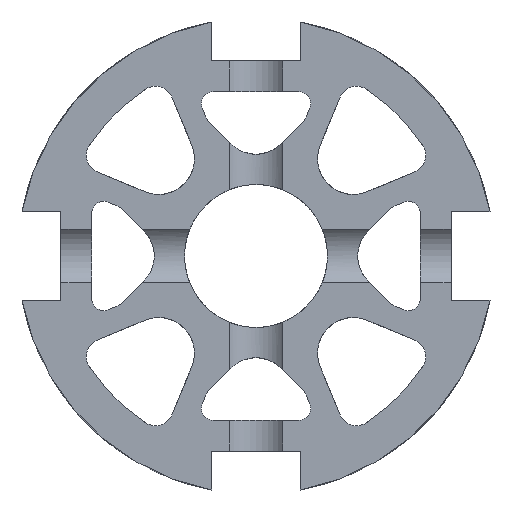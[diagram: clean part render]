
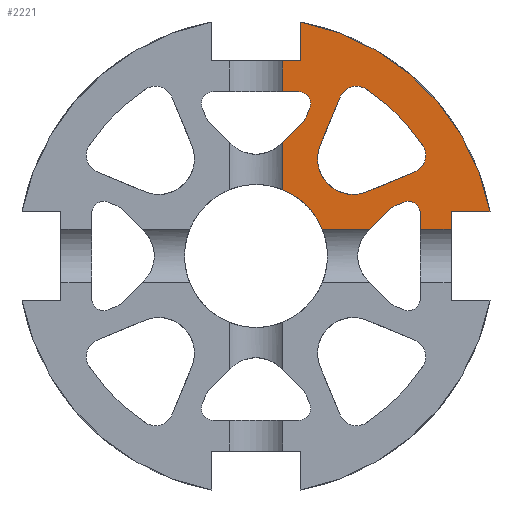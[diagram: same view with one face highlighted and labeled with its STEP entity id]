
A CAD part, front view. The second image highlights one B-rep face of the part: STEP entity #2221.
In plain terms, the highlighted planar face has unit normal (0, -1, 0).
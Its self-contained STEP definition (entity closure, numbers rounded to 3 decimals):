
#2221=ADVANCED_FACE('Split.2',(#4587,#4588),#4589,.F.);
#4587=FACE_OUTER_BOUND('',#6949,.T.);
#4588=FACE_BOUND('',#6950,.T.);
#4589=PLANE('',#6951);
#6949=EDGE_LOOP('',(#14539,#14540,#14541,#14542,#14543,#14544,#14545,#14546,#14547,#14548,#14549,#14550,#14551,#14552,#14553,#14554,#14555,#14556,#14557,#14558,#14559));
#6950=EDGE_LOOP('',(#14560,#14561,#14562,#14563,#14564,#14565,#14566,#14567));
#6951=AXIS2_PLACEMENT_3D('',#14568,#14569,#14570);
#14539=ORIENTED_EDGE('',*,*,#17490,.F.);
#14540=ORIENTED_EDGE('',*,*,#17556,.F.);
#14541=ORIENTED_EDGE('',*,*,#17560,.T.);
#14542=ORIENTED_EDGE('',*,*,#17562,.T.);
#14543=ORIENTED_EDGE('',*,*,#14916,.T.);
#14544=ORIENTED_EDGE('',*,*,#17565,.T.);
#14545=ORIENTED_EDGE('',*,*,#17569,.T.);
#14546=ORIENTED_EDGE('',*,*,#17500,.F.);
#14547=ORIENTED_EDGE('',*,*,#17597,.T.);
#14548=ORIENTED_EDGE('',*,*,#17615,.T.);
#14549=ORIENTED_EDGE('',*,*,#17711,.F.);
#14550=ORIENTED_EDGE('',*,*,#17713,.T.);
#14551=ORIENTED_EDGE('',*,*,#17716,.T.);
#14552=ORIENTED_EDGE('',*,*,#17508,.T.);
#14553=ORIENTED_EDGE('',*,*,#17675,.T.);
#14554=ORIENTED_EDGE('',*,*,#17680,.T.);
#14555=ORIENTED_EDGE('',*,*,#17683,.T.);
#14556=ORIENTED_EDGE('',*,*,#17686,.T.);
#14557=ORIENTED_EDGE('',*,*,#17688,.F.);
#14558=ORIENTED_EDGE('',*,*,#17503,.T.);
#14559=ORIENTED_EDGE('',*,*,#14751,.T.);
#14560=ORIENTED_EDGE('',*,*,#17612,.T.);
#14561=ORIENTED_EDGE('',*,*,#17609,.T.);
#14562=ORIENTED_EDGE('',*,*,#17701,.T.);
#14563=ORIENTED_EDGE('',*,*,#14833,.T.);
#14564=ORIENTED_EDGE('',*,*,#17703,.F.);
#14565=ORIENTED_EDGE('',*,*,#14826,.T.);
#14566=ORIENTED_EDGE('',*,*,#17706,.T.);
#14567=ORIENTED_EDGE('',*,*,#17708,.T.);
#14568=CARTESIAN_POINT('',(0.0,15.0,0.0));
#14569=DIRECTION('',(0.0,1.0,0.0));
#14570=DIRECTION('',(0.0,0.0,1.0));
#14751=EDGE_CURVE('',#17961,#17959,#17962,.T.);
#14826=EDGE_CURVE('',#18103,#18100,#18104,.T.);
#14833=EDGE_CURVE('',#18110,#18114,#18116,.T.);
#14916=EDGE_CURVE('',#18256,#18253,#18257,.T.);
#17490=EDGE_CURVE('',#22098,#17959,#22100,.T.);
#17500=EDGE_CURVE('',#22115,#22117,#22118,.T.);
#17503=EDGE_CURVE('',#22121,#17961,#22122,.T.);
#17508=EDGE_CURVE('',#22128,#22129,#22130,.T.);
#17556=EDGE_CURVE('',#22193,#22098,#22194,.T.);
#17560=EDGE_CURVE('',#22193,#22197,#22199,.T.);
#17562=EDGE_CURVE('',#22197,#18256,#22201,.T.);
#17565=EDGE_CURVE('',#18253,#22203,#22205,.T.);
#17569=EDGE_CURVE('',#22203,#22117,#22210,.T.);
#17597=EDGE_CURVE('',#22115,#22243,#22245,.T.);
#17609=EDGE_CURVE('',#22261,#22259,#22262,.T.);
#17612=EDGE_CURVE('',#22265,#22261,#22266,.T.);
#17615=EDGE_CURVE('',#22243,#22269,#22270,.T.);
#17675=EDGE_CURVE('',#22129,#22343,#22345,.T.);
#17680=EDGE_CURVE('',#22343,#22350,#22352,.T.);
#17683=EDGE_CURVE('',#22350,#22354,#22356,.T.);
#17686=EDGE_CURVE('',#22354,#22358,#22360,.T.);
#17688=EDGE_CURVE('',#22121,#22358,#22362,.T.);
#17701=EDGE_CURVE('',#22259,#18110,#22378,.T.);
#17703=EDGE_CURVE('',#18103,#18114,#22380,.T.);
#17706=EDGE_CURVE('',#18100,#22382,#22384,.T.);
#17708=EDGE_CURVE('',#22382,#22265,#22386,.T.);
#17711=EDGE_CURVE('',#22388,#22269,#22390,.T.);
#17713=EDGE_CURVE('',#22388,#22392,#22393,.T.);
#17716=EDGE_CURVE('',#22392,#22128,#22396,.T.);
#17959=VERTEX_POINT('',#24340);
#17961=VERTEX_POINT('',#24359);
#17962=CIRCLE('',#24360,6.0);
#18100=VERTEX_POINT('',#25418);
#18103=VERTEX_POINT('',#25422);
#18104=CIRCLE('',#25423,1.5);
#18110=VERTEX_POINT('',#25430);
#18114=VERTEX_POINT('',#25449);
#18116=CIRCLE('',#25452,3.0);
#18253=VERTEX_POINT('',#26126);
#18256=VERTEX_POINT('',#26130);
#18257=CIRCLE('',#26131,1.0);
#22098=VERTEX_POINT('',#41788);
#22100=LINE('',#41795,#41796);
#22115=VERTEX_POINT('',#41831);
#22117=VERTEX_POINT('',#41833);
#22118=LINE('',#41834,#41835);
#22121=VERTEX_POINT('',#41838);
#22122=LINE('',#41839,#41840);
#22128=VERTEX_POINT('',#41857);
#22129=VERTEX_POINT('',#41858);
#22130=LINE('',#41859,#41860);
#22193=VERTEX_POINT('',#41947);
#22194=LINE('',#41948,#41949);
#22197=VERTEX_POINT('',#41953);
#22199=CIRCLE('',#41956,1.0);
#22201=LINE('',#41958,#41959);
#22203=VERTEX_POINT('',#41961);
#22205=CIRCLE('',#41964,1.0);
#22210=LINE('',#41971,#41972);
#22243=VERTEX_POINT('',#42016);
#22245=LINE('',#42019,#42020);
#22259=VERTEX_POINT('',#42039);
#22261=VERTEX_POINT('',#42042);
#22262=LINE('',#42043,#42044);
#22265=VERTEX_POINT('',#42048);
#22266=CIRCLE('',#42049,1.5);
#22269=VERTEX_POINT('',#42053);
#22270=LINE('',#42054,#42055);
#22343=VERTEX_POINT('',#42156);
#22345=LINE('',#42159,#42160);
#22350=VERTEX_POINT('',#42167);
#22352=CIRCLE('',#42170,1.);
#22354=VERTEX_POINT('',#42172);
#22356=LINE('',#42175,#42176);
#22358=VERTEX_POINT('',#42178);
#22360=CIRCLE('',#42181,1.0);
#22362=LINE('',#42183,#42184);
#22378=CIRCLE('',#42205,3.0);
#22380=LINE('',#42207,#42208);
#22382=VERTEX_POINT('',#42210);
#22384=CIRCLE('',#42213,1.5);
#22386=CIRCLE('',#42215,16.8);
#22388=VERTEX_POINT('',#42217);
#22390=CIRCLE('',#42220,20.0);
#22392=VERTEX_POINT('',#42222);
#22393=LINE('',#42223,#42224);
#22396=LINE('',#42228,#42229);
#24340=CARTESIAN_POINT('',(5.568,15.,2.236));
#24359=CARTESIAN_POINT('',(2.236,15.,5.568));
#24360=AXIS2_PLACEMENT_3D('',#42299,#42300,#42301);
#25418=CARTESIAN_POINT('',(8.445,15.0,14.258));
#25422=CARTESIAN_POINT('',(7.059,15.0,13.332));
#25423=AXIS2_PLACEMENT_3D('',#42330,#42331,#42332);
#25430=CARTESIAN_POINT('',(8.167,15.0,5.167));
#25449=CARTESIAN_POINT('',(5.395,15.0,9.315));
#25452=AXIS2_PLACEMENT_3D('',#42339,#42340,#42341);
#26126=CARTESIAN_POINT('',(12.8,15.0,4.592));
#26130=CARTESIAN_POINT('',(12.417,15.0,4.516));
#26131=AXIS2_PLACEMENT_3D('',#42393,#42394,#42395);
#41788=CARTESIAN_POINT('',(9.543,15.0,2.236));
#41795=CARTESIAN_POINT('',(7.556,15.0,2.236));
#41796=VECTOR('',#44480,1.0);
#41831=CARTESIAN_POINT('',(16.4,15.0,2.236));
#41833=CARTESIAN_POINT('',(13.8,15.0,2.236));
#41834=CARTESIAN_POINT('',(15.1,15.0,2.236));
#41835=VECTOR('',#44493,1.0);
#41838=CARTESIAN_POINT('',(2.236,15.0,9.543));
#41839=CARTESIAN_POINT('',(2.236,15.0,7.556));
#41840=VECTOR('',#44497,1.0);
#41857=CARTESIAN_POINT('',(2.236,15.0,16.4));
#41858=CARTESIAN_POINT('',(2.236,15.0,13.8));
#41859=CARTESIAN_POINT('',(2.236,15.0,15.1));
#41860=VECTOR('',#44499,1.0);
#41947=CARTESIAN_POINT('',(11.262,15.0,3.955));
#41948=CARTESIAN_POINT('',(10.403,15.0,3.095));
#41949=VECTOR('',#44548,1.0);
#41953=CARTESIAN_POINT('',(11.587,15.0,4.171));
#41956=AXIS2_PLACEMENT_3D('',#44551,#44552,#44553);
#41958=CARTESIAN_POINT('',(12.002,15.0,4.344));
#41959=VECTOR('',#44554,1.0);
#41961=CARTESIAN_POINT('',(13.8,15.0,3.592));
#41964=AXIS2_PLACEMENT_3D('',#44556,#44557,#44558);
#41971=CARTESIAN_POINT('',(13.8,15.0,2.914));
#41972=VECTOR('',#44561,1.0);
#42016=CARTESIAN_POINT('',(16.4,15.0,3.7));
#42019=CARTESIAN_POINT('',(16.4,15.0,2.968));
#42020=VECTOR('',#44589,1.0);
#42039=CARTESIAN_POINT('',(9.315,15.0,5.395));
#42042=CARTESIAN_POINT('',(13.332,15.0,7.059));
#42043=CARTESIAN_POINT('',(11.324,15.0,6.227));
#42044=VECTOR('',#44599,1.0);
#42048=CARTESIAN_POINT('',(14.009,15.0,9.273));
#42049=AXIS2_PLACEMENT_3D('',#44601,#44602,#44603);
#42053=CARTESIAN_POINT('',(19.655,15.0,3.7));
#42054=CARTESIAN_POINT('',(18.027,15.0,3.7));
#42055=VECTOR('',#44605,1.0);
#42156=CARTESIAN_POINT('',(3.592,15.0,13.8));
#42159=CARTESIAN_POINT('',(2.914,15.0,13.8));
#42160=VECTOR('',#44665,1.0);
#42167=CARTESIAN_POINT('',(4.516,15.0,12.417));
#42170=AXIS2_PLACEMENT_3D('',#44669,#44670,#44671);
#42172=CARTESIAN_POINT('',(4.171,15.0,11.586));
#42175=CARTESIAN_POINT('',(4.343,15.0,12.002));
#42176=VECTOR('',#44673,1.0);
#42178=CARTESIAN_POINT('',(3.955,15.0,11.262));
#42181=AXIS2_PLACEMENT_3D('',#44675,#44676,#44677);
#42183=CARTESIAN_POINT('',(3.095,15.0,10.403));
#42184=VECTOR('',#44678,1.0);
#42205=AXIS2_PLACEMENT_3D('',#44690,#44691,#44692);
#42207=CARTESIAN_POINT('',(6.227,15.0,11.324));
#42208=VECTOR('',#44693,1.0);
#42210=CARTESIAN_POINT('',(9.273,15.0,14.009));
#42213=AXIS2_PLACEMENT_3D('',#44695,#44696,#44697);
#42215=AXIS2_PLACEMENT_3D('',#44698,#44699,#44700);
#42217=CARTESIAN_POINT('',(3.7,15.0,19.655));
#42220=AXIS2_PLACEMENT_3D('',#44702,#44703,#44704);
#42222=CARTESIAN_POINT('',(3.7,15.0,16.4));
#42223=CARTESIAN_POINT('',(3.7,15.0,18.027));
#42224=VECTOR('',#44705,1.0);
#42228=CARTESIAN_POINT('',(2.968,15.0,16.4));
#42229=VECTOR('',#44707,1.0);
#42299=CARTESIAN_POINT('',(0.,15.0,0.));
#42300=DIRECTION('',(0.0,1.0,0.0));
#42301=DIRECTION('',(0.0,0.0,1.0));
#42330=CARTESIAN_POINT('',(8.445,15.0,12.758));
#42331=DIRECTION('',(0.0,1.0,0.0));
#42332=DIRECTION('',(0.0,0.0,1.0));
#42339=CARTESIAN_POINT('',(8.167,15.0,8.167));
#42340=DIRECTION('',(0.0,1.0,0.0));
#42341=DIRECTION('',(0.0,0.0,1.0));
#42393=CARTESIAN_POINT('',(12.8,15.0,3.592));
#42394=DIRECTION('',(0.0,1.0,0.0));
#42395=DIRECTION('',(0.0,0.0,1.0));
#44480=DIRECTION('',(-1.0,0.0,0.0));
#44493=DIRECTION('',(-1.0,0.0,0.0));
#44497=DIRECTION('',(0.0,0.0,-1.0));
#44499=DIRECTION('',(0.0,0.0,-1.0));
#44548=DIRECTION('',(-0.707,0.0,-0.707));
#44551=CARTESIAN_POINT('',(11.969,15.0,3.248));
#44552=DIRECTION('',(0.0,1.0,0.0));
#44553=DIRECTION('',(0.0,0.0,1.0));
#44554=DIRECTION('',(0.924,0.0,0.383));
#44556=CARTESIAN_POINT('',(12.8,15.0,3.592));
#44557=DIRECTION('',(0.0,1.0,0.0));
#44558=DIRECTION('',(0.0,0.0,1.0));
#44561=DIRECTION('',(0.0,0.0,-1.0));
#44589=DIRECTION('',(0.0,0.0,1.0));
#44599=DIRECTION('',(-0.924,0.0,-0.383));
#44601=CARTESIAN_POINT('',(12.758,15.0,8.445));
#44602=DIRECTION('',(0.0,1.0,0.0));
#44603=DIRECTION('',(0.0,0.0,1.0));
#44605=DIRECTION('',(1.0,0.0,0.0));
#44665=DIRECTION('',(1.0,0.0,0.0));
#44669=CARTESIAN_POINT('',(3.592,15.0,12.8));
#44670=DIRECTION('',(0.0,1.0,0.0));
#44671=DIRECTION('',(0.0,0.0,1.0));
#44673=DIRECTION('',(-0.383,0.0,-0.924));
#44675=CARTESIAN_POINT('',(3.247,15.0,11.969));
#44676=DIRECTION('',(0.0,1.0,0.0));
#44677=DIRECTION('',(0.0,0.0,1.0));
#44678=DIRECTION('',(0.707,0.0,0.707));
#44690=CARTESIAN_POINT('',(8.167,15.0,8.167));
#44691=DIRECTION('',(0.0,1.0,0.0));
#44692=DIRECTION('',(0.0,0.0,1.0));
#44693=DIRECTION('',(-0.383,0.0,-0.924));
#44695=CARTESIAN_POINT('',(8.445,15.0,12.758));
#44696=DIRECTION('',(0.0,1.0,0.0));
#44697=DIRECTION('',(0.0,0.0,1.0));
#44698=CARTESIAN_POINT('',(0.,15.0,0.));
#44699=DIRECTION('',(0.0,1.0,0.0));
#44700=DIRECTION('',(0.0,0.0,1.0));
#44702=CARTESIAN_POINT('',(0.,15.0,0.));
#44703=DIRECTION('',(0.0,1.0,0.0));
#44704=DIRECTION('',(0.0,0.0,1.0));
#44705=DIRECTION('',(0.0,0.0,-1.0));
#44707=DIRECTION('',(-1.0,0.0,0.0));
